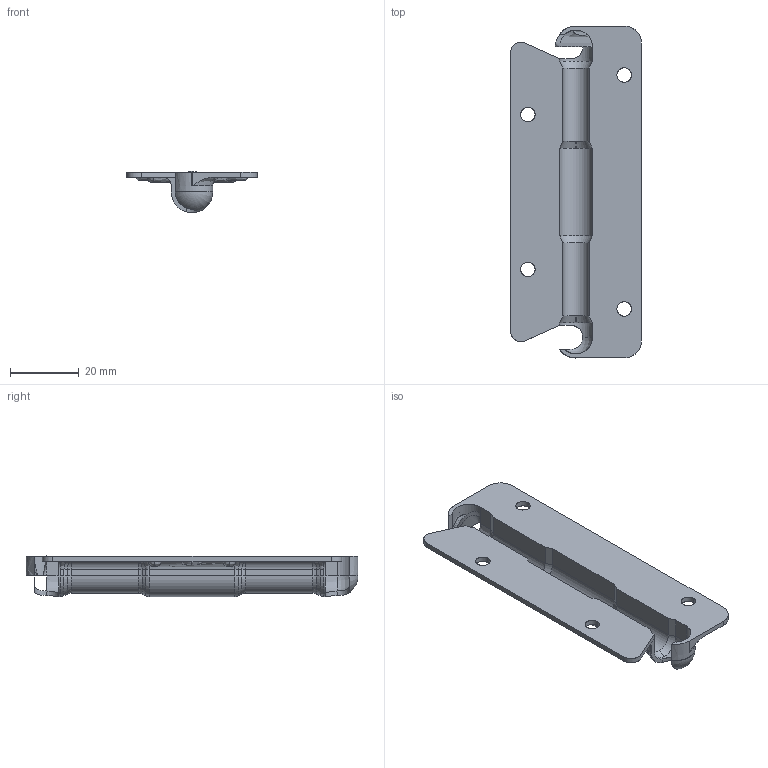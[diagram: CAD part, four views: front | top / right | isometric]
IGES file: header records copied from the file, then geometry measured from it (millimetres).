
Start section: SolidWorks IGES FILE using analytic representation for surfaces
Global section: file name: C:\Documents and Settings\lecoutey\Bureau\PO 304\304.010.00.IGS; native system: SolidWorks 2004 by SolidWorks Corporation; preprocessor: Version 5.3; author: lecoutey; date: 050408.134938; units: millimetre
Bounding box: 38 x 96.5 x 11.99 mm (x, y, z)
Surface area: 10095.8 mm2 (no closed solid volume)
Topology: 0 solids, 0 shells, 203 faces, 1875 edges, 1862 vertices
Faces by surface type: revolution 102, bspline 101
